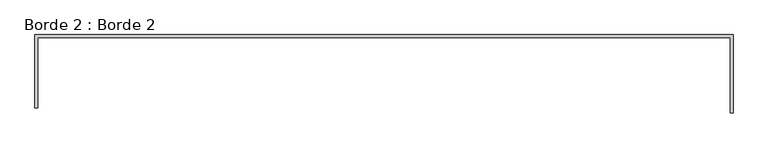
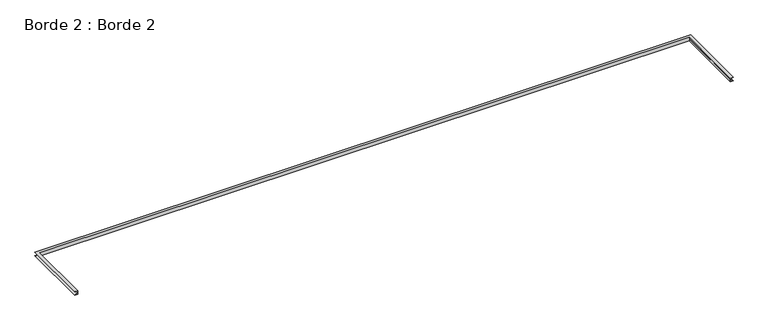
"""IFC4 building model written with IfcOpenShell, lengths in millimetres: proxy geometry, Borde 2 : Borde 2."""

from ifc_helpers import new_model, si_unit, frame, origin, place, context, project, spatial, polyline, circle_curve, ellipse_curve, source, transform, mapped, element, save
from ifc_brep_helpers import plane_surface, revolved_surface, advanced_brep


def borde_2_borde_2_66326f44(model_context):
    return source(origin(), model_context, "Body", "AdvancedBrep", [
        advanced_brep(
        [(3738.9398199, 1819.072658, 2000.0), (3738.9398199, 1819.072658, 1960.0), (3768.9398199, 1819.072658, 1960.0), (3768.9398199, 1819.072658, 2000.0), (3738.9398199, 2577.3330963, 2000.0), (3738.9398199, 2577.3330963, 1960.0), (-3220.1061235, 2577.3330963, 1960.0), (-3220.1061235, 1869.072658, 1960.0), (-3250.1061235, 1869.072658, 1960.0), (-3250.1061235, 2607.3330963, 1960.0), (3768.9398199, 2607.3330963, 1960.0), (3768.9398199, 2607.3330963, 2000.0), (-3250.1061235, 2607.3330963, 2000.0), (-3250.1061235, 1869.072658, 2000.0), (-3220.1061235, 1869.072658, 2000.0), (-3220.1061235, 2577.3330963, 2000.0)],
        [
            (0, 1),
            (1, 2),
            (2, 3, circle_curve(frame((3768.9398199, 1819.072658, 1980.0), z_axis=(0.0, 1.0, 0.0), x_axis=(1.0, 0.0, 0.0)), 20.0)),
            (3, 0),
            (0, 4),
            (4, 5),
            (5, 1),
            (5, 6),
            (6, 7),
            (7, 8),
            (8, 9),
            (9, 10),
            (10, 2),
            (10, 11, ellipse_curve(frame((3768.9398199, 2607.3330963, 1980.0), z_axis=(-0.7071067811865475, 0.7071067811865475, 0.0), x_axis=(0.7071067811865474, 0.7071067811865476, 0.0)), 28.2842712, 20.0)),
            (11, 3),
            (11, 12),
            (12, 13),
            (13, 14),
            (14, 15),
            (15, 4),
            (15, 6),
            (9, 12, ellipse_curve(frame((-3250.1061235, 2607.3330963, 1980.0), z_axis=(-0.7071067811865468, -0.7071067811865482, 0.0), x_axis=(-0.7071067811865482, 0.7071067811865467, 0.0)), 28.2842712, 20.0)),
            (13, 8, circle_curve(frame((-3250.1061235, 1869.072658, 1980.0), z_axis=(0.0, 1.0, 0.0), x_axis=(-1.0, 0.0, 0.0)), 20.0)),
            (7, 14),
        ],
        [
            plane_surface(frame((3768.9398199, 1819.072658, 2000.0), z_axis=(0.0, -1.0, 0.0), x_axis=(0.0, 0.0, -1.0))),
            plane_surface(frame((3738.9398199, 1819.072658, 2000.0), z_axis=(-1.0, 0.0, 0.0), x_axis=(0.0, 1.0, 0.0))),
            plane_surface(frame((3738.9398199, 1819.072658, 1960.0), z_axis=(0.0, 0.0, -1.0), x_axis=(0.0, 1.0, 0.0))),
            revolved_surface(polyline([(3788.9398199, 2627.3330962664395, 1980.0), (3788.9398199, 1819.072658, 1980.0)]), (3768.9398199, 1819.072658, 1980.0), (0.0, 1.0, 0.0)),
            plane_surface(frame((3768.9398199, 1819.072658, 2000.0), z_axis=(0.0, 0.0, 1.0), x_axis=(0.0, 1.0, 0.0))),
            plane_surface(frame((3738.9398199, 2577.3330963, 2000.0), z_axis=(0.0, -1.0, 0.0), x_axis=(-1.0, 0.0, 0.0))),
            revolved_surface(polyline([(-3270.10612346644, 2627.3330963, 1980.0), (3788.9398198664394, 2627.3330963, 1980.0)]), (3768.9398199, 2607.3330963, 1980.0), (-1.0, 0.0, 0.0)),
            plane_surface(frame((-3250.1061235, 1869.072658, 2000.0), z_axis=(0.0, -1.0, 0.0), x_axis=(0.0, 0.0, -1.0))),
            plane_surface(frame((-3220.1061235, 2577.3330963, 2000.0), z_axis=(1.0, 0.0, 0.0), x_axis=(0.0, -1.0, 0.0))),
            revolved_surface(polyline([(-3270.1061235, 1869.072658, 1980.0), (-3270.1061235, 2627.333096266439, 1980.0)]), (-3250.1061235, 2607.3330963, 1980.0), (0.0, -1.0, 0.0)),
        ],
        [
            (0, [[1, 2, 3, 4]]),
            (1, [[-1, 5, 6, 7]]),
            (2, [[-2, -7, 8, 9, 10, 11, 12, 13]]),
            (3, [[-3, -13, 14, 15]]),
            (4, [[-4, -15, 16, 17, 18, 19, 20, -5]]),
            (5, [[-6, -20, 21, -8]]),
            (6, [[-14, -12, 22, -16]]),
            (7, [[-18, 23, -10, 24]]),
            (8, [[-21, -19, -24, -9]]),
            (9, [[-22, -11, -23, -17]]),
        ],
    ),
    ])


if __name__ == "__main__":
    model = new_model("IFC4")
    model_context = context("Model", 3, world=origin())
    ifc_project = project(units=[si_unit("LENGTHUNIT", "METRE", prefix="MILLI")], contexts=[model_context])
    site = spatial("IfcSite", under=ifc_project)
    building = spatial("IfcBuilding", under=site)
    placement = place(None, origin())
    borde_2_borde_2_shape = borde_2_borde_2_66326f44(model_context)
    element("IfcBuildingElementProxy", 1, Name="Borde 2 : Borde 2", ObjectType="Borde 2 : Borde 2", at=placement, inside=building, context=model_context, shape_type="MappedRepresentation", body=[
        mapped(borde_2_borde_2_shape, transform((0.0, 0.0, 0.0), x_axis=(1.0, 0.0, 0.0), y_axis=(0.0, 1.0, 0.0), z_axis=(0.0, 0.0, 1.0))),
    ])
    save(model, "model.ifc")
